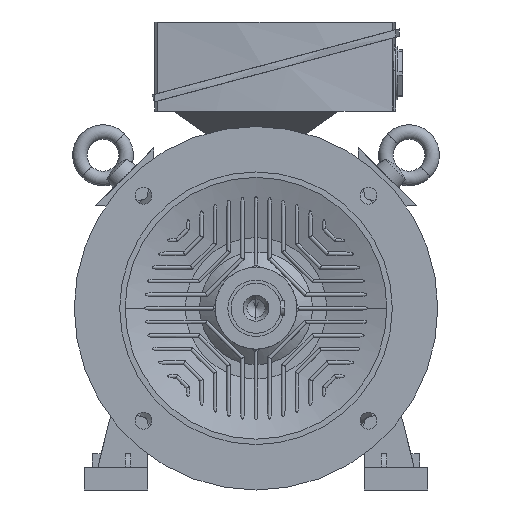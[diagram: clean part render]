
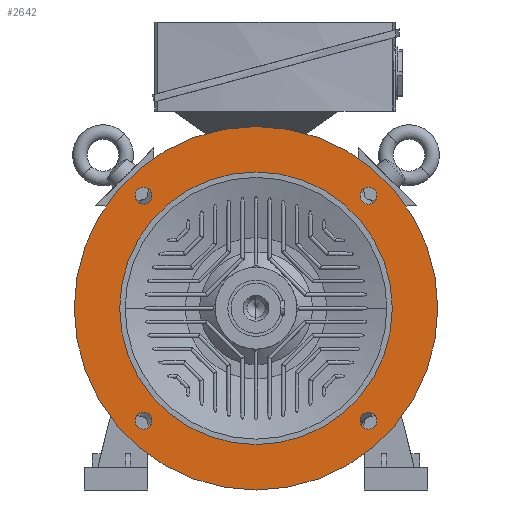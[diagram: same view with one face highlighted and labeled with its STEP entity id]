
A CAD part, left-side view. The second image highlights one B-rep face of the part: STEP entity #2642.
In plain terms, the highlighted planar face has unit normal (-1, 0, 0).
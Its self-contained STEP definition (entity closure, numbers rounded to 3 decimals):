
#2642=ADVANCED_FACE('',(#6035,#6036,#6037,#6038,#6039,#6040),#6041,.T.);
#6035=FACE_BOUND('',#10181,.T.);
#6036=FACE_BOUND('',#10182,.T.);
#6037=FACE_BOUND('',#10183,.T.);
#6038=FACE_BOUND('',#10184,.T.);
#6039=FACE_OUTER_BOUND('',#10185,.T.);
#6040=FACE_BOUND('',#10186,.T.);
#6041=PLANE('',#10187);
#10181=EDGE_LOOP('',(#18307,#18308));
#10182=EDGE_LOOP('',(#18309,#18310));
#10183=EDGE_LOOP('',(#18311,#18312));
#10184=EDGE_LOOP('',(#18313,#18314));
#10185=EDGE_LOOP('',(#18315,#18316));
#10186=EDGE_LOOP('',(#18317,#18318));
#10187=AXIS2_PLACEMENT_3D('',#18319,#18320,#18321);
#18307=ORIENTED_EDGE('',*,*,#27818,.T.);
#18308=ORIENTED_EDGE('',*,*,#25604,.T.);
#18309=ORIENTED_EDGE('',*,*,#27819,.T.);
#18310=ORIENTED_EDGE('',*,*,#25609,.T.);
#18311=ORIENTED_EDGE('',*,*,#27820,.T.);
#18312=ORIENTED_EDGE('',*,*,#25614,.T.);
#18313=ORIENTED_EDGE('',*,*,#27821,.T.);
#18314=ORIENTED_EDGE('',*,*,#25619,.T.);
#18315=ORIENTED_EDGE('',*,*,#25624,.F.);
#18316=ORIENTED_EDGE('',*,*,#27822,.F.);
#18317=ORIENTED_EDGE('',*,*,#25745,.T.);
#18318=ORIENTED_EDGE('',*,*,#27759,.T.);
#18319=CARTESIAN_POINT('',(-87.0,175.0,0.0));
#18320=DIRECTION('',(-1.0,0.0,0.0));
#18321=DIRECTION('',(0.0,-1.0,0.0));
#25604=EDGE_CURVE('',#30941,#30938,#30942,.T.);
#25609=EDGE_CURVE('',#30950,#30947,#30951,.T.);
#25614=EDGE_CURVE('',#30959,#30956,#30960,.T.);
#25619=EDGE_CURVE('',#30968,#30965,#30969,.T.);
#25624=EDGE_CURVE('',#30974,#30977,#30978,.T.);
#25745=EDGE_CURVE('',#31192,#31196,#31198,.T.);
#27759=EDGE_CURVE('',#31196,#31192,#34143,.T.);
#27818=EDGE_CURVE('',#30938,#30941,#34212,.T.);
#27819=EDGE_CURVE('',#30947,#30950,#34213,.T.);
#27820=EDGE_CURVE('',#30956,#30959,#34214,.T.);
#27821=EDGE_CURVE('',#30965,#30968,#34215,.T.);
#27822=EDGE_CURVE('',#30977,#30974,#34216,.T.);
#30938=VERTEX_POINT('',#39491);
#30941=VERTEX_POINT('',#39495);
#30942=CIRCLE('',#39496,9.25);
#30947=VERTEX_POINT('',#39502);
#30950=VERTEX_POINT('',#39506);
#30951=CIRCLE('',#39507,9.25);
#30956=VERTEX_POINT('',#39513);
#30959=VERTEX_POINT('',#39517);
#30960=CIRCLE('',#39518,9.25);
#30965=VERTEX_POINT('',#39524);
#30968=VERTEX_POINT('',#39528);
#30969=CIRCLE('',#39529,9.25);
#30974=VERTEX_POINT('',#39535);
#30977=VERTEX_POINT('',#39539);
#30978=CIRCLE('',#39540,200.0);
#31192=VERTEX_POINT('',#40014);
#31196=VERTEX_POINT('',#40019);
#31198=CIRCLE('',#40022,150.0);
#34143=CIRCLE('',#47771,150.0);
#34212=CIRCLE('',#47980,9.25);
#34213=CIRCLE('',#47981,9.25);
#34214=CIRCLE('',#47982,9.25);
#34215=CIRCLE('',#47983,9.25);
#34216=CIRCLE('',#47984,200.0);
#39491=CARTESIAN_POINT('',(-87.0,-130.284,-130.284));
#39495=CARTESIAN_POINT('',(-87.0,-117.203,-117.203));
#39496=AXIS2_PLACEMENT_3D('',#63453,#63454,#63455);
#39502=CARTESIAN_POINT('',(-87.0,130.284,-130.284));
#39506=CARTESIAN_POINT('',(-87.0,117.203,-117.203));
#39507=AXIS2_PLACEMENT_3D('',#63461,#63462,#63463);
#39513=CARTESIAN_POINT('',(-87.0,130.284,130.284));
#39517=CARTESIAN_POINT('',(-87.0,117.203,117.203));
#39518=AXIS2_PLACEMENT_3D('',#63469,#63470,#63471);
#39524=CARTESIAN_POINT('',(-87.0,-130.284,130.284));
#39528=CARTESIAN_POINT('',(-87.0,-117.203,117.203));
#39529=AXIS2_PLACEMENT_3D('',#63477,#63478,#63479);
#39535=CARTESIAN_POINT('',(-87.0,200.0,0.0));
#39539=CARTESIAN_POINT('',(-87.0,-200.0,0.));
#39540=AXIS2_PLACEMENT_3D('',#63485,#63486,#63487);
#40014=CARTESIAN_POINT('',(-87.0,150.0,0.0));
#40019=CARTESIAN_POINT('',(-87.0,-150.0,0.));
#40022=AXIS2_PLACEMENT_3D('',#63680,#63681,#63682);
#47771=AXIS2_PLACEMENT_3D('',#65466,#65467,#65468);
#47980=AXIS2_PLACEMENT_3D('',#65545,#65546,#65547);
#47981=AXIS2_PLACEMENT_3D('',#65548,#65549,#65550);
#47982=AXIS2_PLACEMENT_3D('',#65551,#65552,#65553);
#47983=AXIS2_PLACEMENT_3D('',#65554,#65555,#65556);
#47984=AXIS2_PLACEMENT_3D('',#65557,#65558,#65559);
#63453=CARTESIAN_POINT('',(-87.0,-123.744,-123.744));
#63454=DIRECTION('',(1.0,0.0,0.0));
#63455=DIRECTION('',(0.0,-0.707,-0.707));
#63461=CARTESIAN_POINT('',(-87.0,123.744,-123.744));
#63462=DIRECTION('',(1.0,-0.0,0.0));
#63463=DIRECTION('',(0.0,0.707,-0.707));
#63469=CARTESIAN_POINT('',(-87.0,123.744,123.744));
#63470=DIRECTION('',(1.0,0.0,-0.0));
#63471=DIRECTION('',(0.0,0.707,0.707));
#63477=CARTESIAN_POINT('',(-87.0,-123.744,123.744));
#63478=DIRECTION('',(1.0,0.0,-0.0));
#63479=DIRECTION('',(0.0,-0.707,0.707));
#63485=CARTESIAN_POINT('',(-87.0,0.0,0.0));
#63486=DIRECTION('',(1.0,0.0,0.0));
#63487=DIRECTION('',(0.0,1.0,0.0));
#63680=CARTESIAN_POINT('',(-87.0,0.0,0.0));
#63681=DIRECTION('',(1.0,0.0,0.0));
#63682=DIRECTION('',(0.0,1.0,0.0));
#65466=CARTESIAN_POINT('',(-87.0,0.0,0.0));
#65467=DIRECTION('',(1.0,0.0,0.0));
#65468=DIRECTION('',(0.0,1.0,0.0));
#65545=CARTESIAN_POINT('',(-87.0,-123.744,-123.744));
#65546=DIRECTION('',(1.0,0.0,0.0));
#65547=DIRECTION('',(0.0,-0.707,-0.707));
#65548=CARTESIAN_POINT('',(-87.0,123.744,-123.744));
#65549=DIRECTION('',(1.0,-0.0,0.0));
#65550=DIRECTION('',(0.0,0.707,-0.707));
#65551=CARTESIAN_POINT('',(-87.0,123.744,123.744));
#65552=DIRECTION('',(1.0,0.0,-0.0));
#65553=DIRECTION('',(0.0,0.707,0.707));
#65554=CARTESIAN_POINT('',(-87.0,-123.744,123.744));
#65555=DIRECTION('',(1.0,0.0,-0.0));
#65556=DIRECTION('',(0.0,-0.707,0.707));
#65557=CARTESIAN_POINT('',(-87.0,0.0,0.0));
#65558=DIRECTION('',(1.0,0.0,0.0));
#65559=DIRECTION('',(0.0,1.0,0.0));
